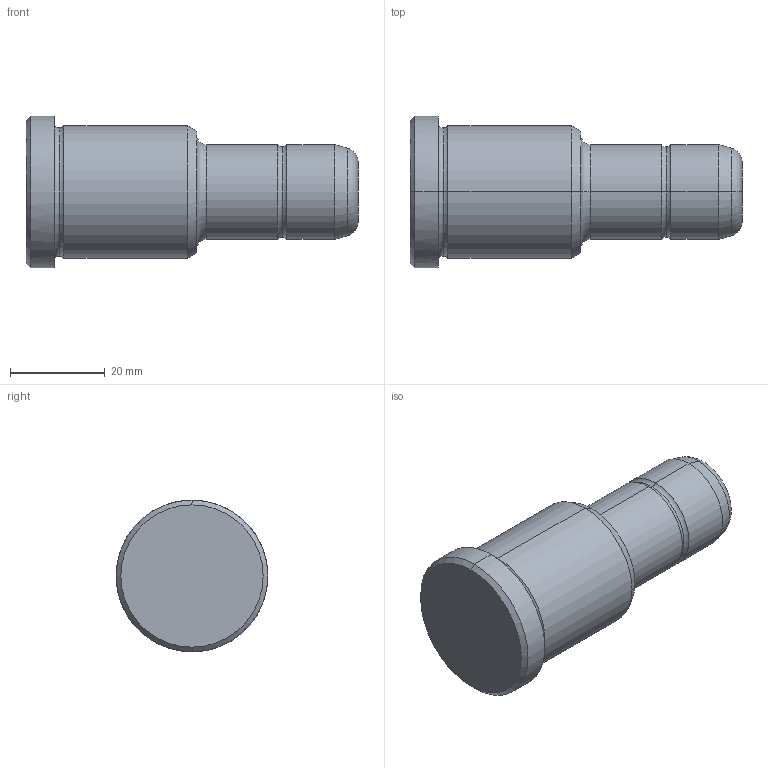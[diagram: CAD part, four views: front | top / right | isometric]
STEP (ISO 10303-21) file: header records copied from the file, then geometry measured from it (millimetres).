
FILE_DESCRIPTION(('CATIA V5 STEP Exchange'),'2;1');
FILE_NAME('C:\Users\Utente\Desktop\IO LAVORO\3D X SITO CF\X SITO\PLASTICA\351\351-20X36X70.stp','2021-08-27T12:27:44+00:00',('none'),('none'),'CATIA Version 5 Release 20 GA (IN-10)','CATIA V5 STEP AP203','none');
FILE_SCHEMA(('CONFIG_CONTROL_DESIGN'));
Length unit declared in the file: millimetre
Products named in the file (1): 351-20X36X70
Bounding box: 70 x 32 x 32 mm (x, y, z)
Volume: 33530.3 mm3; surface area: 6705.8 mm2
Topology: 1 solids, 1 shells, 30 faces, 86 edges, 60 vertices
Faces by surface type: torus 12, cylinder 8, cone 6, plane 4
Entity records: 1112 total; most frequent: CARTESIAN_POINT 289, ORIENTED_EDGE 172, DIRECTION 138, AXIS2_PLACEMENT_3D 95, EDGE_CURVE 86, CIRCLE 64, VERTEX_POINT 60, EDGE_LOOP 32
